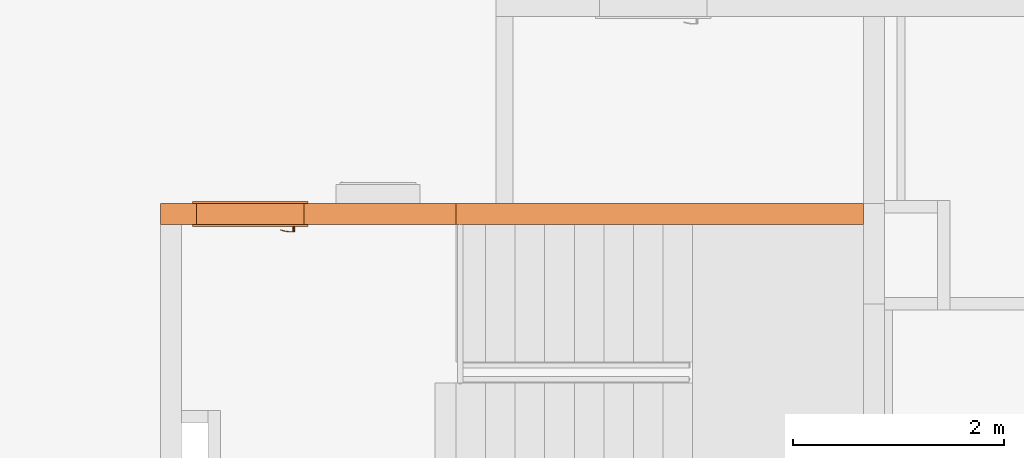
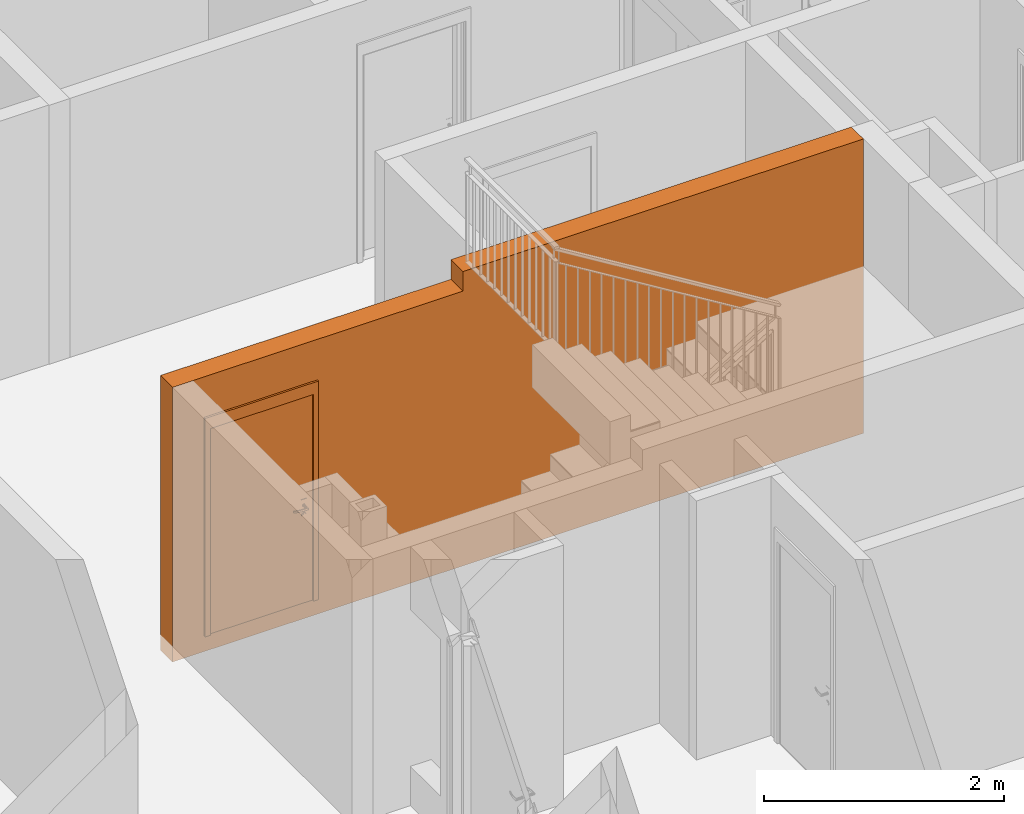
# One storey, part 23 of 61: 2 proxies, 1 opening.
"""IFC2X3 building model written with IfcOpenShell, lengths in millimetres."""

from ifc_helpers import new_model, entity, si_unit, converted_unit, derived_unit, money_unit, direction, frame, origin_with_axes, origin_2d_with_axis, place, context, subcontext, project, spatial, rectangle, extrude, open_shell, faceted_brep, surface_model, source, transform, mapped, material, type_object, element, fill, save


model = new_model("IFC2X3")

# Units and contexts
model_context = context("Model", 3, precision=0.01, world=origin_with_axes(), true_north=direction((0.34421633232, 0.938890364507)))
body_context = subcontext(model_context, "Body", "Model", "MODEL_VIEW")
ifc_project = project(units=[si_unit("LENGTHUNIT", "METRE", prefix="MILLI"), si_unit("AREAUNIT", "SQUARE_METRE"), si_unit("VOLUMEUNIT", "CUBIC_METRE"), converted_unit("PLANEANGLEUNIT", "DEGREE", entity("IfcPlaneAngleMeasure", 0.0174532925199), si_unit("PLANEANGLEUNIT", "RADIAN"), dimensions=[0, 0, 0, 0, 0, 0, 0]), si_unit("SOLIDANGLEUNIT", "STERADIAN"), money_unit("USD"), converted_unit("TIMEUNIT", "Year", entity("IfcTimeMeasure", 31556926.0), si_unit("TIMEUNIT", "SECOND"), dimensions=[0, 0, 1, 0, 0, 0, 0]), si_unit("MASSUNIT", "GRAM", prefix="KILO"), si_unit("THERMODYNAMICTEMPERATUREUNIT", "DEGREE_CELSIUS"), si_unit("LUMINOUSINTENSITYUNIT", "LUMEN"), si_unit("ENERGYUNIT", "JOULE", prefix="MEGA"), derived_unit("THERMALCONDUCTANCEUNIT", [(si_unit("POWERUNIT", "WATT"), 1), (si_unit("LENGTHUNIT", "METRE"), -1), (si_unit("THERMODYNAMICTEMPERATUREUNIT", "KELVIN"), -1)]), derived_unit("SPECIFICHEATCAPACITYUNIT", [(si_unit("ENERGYUNIT", "JOULE"), 1), (si_unit("MASSUNIT", "GRAM", prefix="KILO"), -1), (si_unit("THERMODYNAMICTEMPERATUREUNIT", "KELVIN"), -1)]), derived_unit("MASSDENSITYUNIT", [(si_unit("MASSUNIT", "GRAM", prefix="KILO"), 1), (si_unit("VOLUMEUNIT", "CUBIC_METRE"), -1)])], contexts=[model_context])

# Site, building, storey
site_placement = place(None, origin_with_axes())
site = spatial("IfcSite", under=ifc_project, at=site_placement, Name="USTRONIE MORSKIE", CompositionType="ELEMENT")
building_placement = place(site_placement, origin_with_axes())
building = spatial("IfcBuilding", under=site, at=building_placement, Name="Budynek", CompositionType="ELEMENT")
storey_placement = place(building_placement, frame((0.0, 0.0, 13000.0), z_axis=(0.0, 0.0, 1.0), x_axis=(1.0, 0.0, 0.0)))
storey = spatial("IfcBuildingStorey", under=building, at=storey_placement, Name="PIĘTRO 4", CompositionType="ELEMENT", Elevation=13000.0)

# Proxies, opening
ifc_material = material(Name="Beton konstrukcyjny B25")
building_element_proxy_type_1 = type_object("IfcBuildingElementProxyType", Name="Beton konstrukcyjny B25 200", PredefinedType="NOTDEFINED")
proxy_1_placement = place(storey_placement, frame((389657.920919, 732801.199036, -160.0), z_axis=(0.0, 0.0, 1.0), x_axis=(1.0, 0.0, 0.0)))
proxy_1 = element("IfcBuildingElementProxy", 1, at=proxy_1_placement, inside=storey, type_object=building_element_proxy_type_1, material=ifc_material, Name="SW-01", context=body_context, shape_type="Brep", body=[
    faceted_brep([(-100.0, 100.0, 2800.0), (0.0, 100.0, 2800.0), (2700.00010543, 99.9999501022, 2800.0), (2700.00010543, 99.9999501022, 3000.0), (6560.0, 100.0, 3000.0), (6560.0, 100.0, 0.0), (-100.0, 100.0, 0.0), (-100.0, -100.0, 2800.0), (0.0, -100.0, 2800.0), (2700.00010543, -100.0, 2800.0), (2700.00010543, -100.0, 3000.0), (6560.0, -100.0, 3000.0), (6560.0, -100.0, 0.0), (-100.0, -100.0, 0.0)], [[[0, 1, 2, 3, 4, 5, 6]], [[7, 8, 1, 0]], [[9, 2, 1, 8]], [[9, 10, 3, 2]], [[4, 3, 10, 11]], [[12, 5, 4, 11]], [[5, 12, 13, 6]], [[6, 13, 7, 0]], [[10, 9, 8, 7, 13, 12, 11]]]),
])
opening_placement = place(proxy_1_placement, frame((750.0, 0.0, 160.0), z_axis=(0.0, 0.0, 1.0), x_axis=(1.0, 0.0, 0.0)))
opening = element("IfcOpeningElement", 2, at=opening_placement, cuts=proxy_1, Name="Dw.1'", context=body_context, shape_type="SweptSolid", body=[
    extrude(rectangle(XDim=1020.0, YDim=2120.0, at=origin_2d_with_axis()), frame((0.0, 200.0, 1060.0), z_axis=(0.0, -1.0, 0.0), x_axis=(-1.0, 0.0, 0.0)), (0.0, 0.0, 1.0), 600.0),
    extrude(rectangle(XDim=1094.0, YDim=2227.0, at=origin_2d_with_axis()), frame((0.0, 100.0, 1113.5), z_axis=(0.0, -1.0, 0.0), x_axis=(-1.0, 0.0, 0.0)), (0.0, 0.0, -1.0), 200.0),
    extrude(rectangle(XDim=1094.0, YDim=2227.0, at=origin_2d_with_axis()), frame((0.0, -100.0, 1113.5), z_axis=(0.0, 1.0, 0.0), x_axis=(-1.0, 0.0, 0.0)), (0.0, 0.0, -1.0), 200.0),
])
building_element_proxy_type_2 = type_object("IfcBuildingElementProxyType", Name="Drzwi 23", PredefinedType="NOTDEFINED")
shared_shape = source(origin_with_axes(), body_context, "Body", "SurfaceModel", [
    faceted_brep([(-510.0, -115.0, 0.0), (-485.0, -115.0, 0.0), (-485.0, -200.0, 0.0), (-510.0, -200.0, 0.0), (-510.0, -115.0, 2120.0), (-485.0, -115.0, 2095.0), (-485.0, -200.0, 2095.0), (-510.0, -200.0, 2120.0)], [[[0, 1, 2, 3]], [[0, 4, 5, 1]], [[1, 5, 6, 2]], [[3, 2, 6, 7]], [[4, 0, 3, 7]], [[5, 4, 7, 6]]]),
    faceted_brep([(510.0, -115.0, 2120.0), (485.0, -115.0, 2095.0), (485.0, -200.0, 2095.0), (510.0, -200.0, 2120.0), (510.0, -115.0, 0.0), (485.0, -115.0, 0.0), (485.0, -200.0, 0.0), (510.0, -200.0, 0.0)], [[[0, 1, 2, 3]], [[0, 4, 5, 1]], [[1, 5, 6, 2]], [[3, 2, 6, 7]], [[4, 0, 3, 7]], [[5, 4, 7, 6]]]),
    faceted_brep([(-485.0, -115.0, 2095.0), (485.0, -115.0, 2095.0), (485.0, -200.0, 2095.0), (-485.0, -200.0, 2095.0), (-510.0, -115.0, 2120.0), (510.0, -115.0, 2120.0), (510.0, -200.0, 2120.0), (-510.0, -200.0, 2120.0)], [[[0, 1, 2, 3]], [[0, 4, 5, 1]], [[1, 5, 6, 2]], [[3, 2, 6, 7]], [[4, 0, 3, 7]], [[5, 4, 7, 6]]]),
    faceted_brep([(-547.0, -219.0, 0.0), (-547.0, -200.0, 0.0), (-497.0, -200.0, 0.0), (-497.0, -219.0, 0.0), (-547.0, -219.0, 2227.0), (-547.0, -200.0, 2227.0), (-497.0, -200.0, 2107.0), (-497.0, -219.0, 2107.0)], [[[0, 1, 2, 3]], [[4, 5, 1, 0]], [[1, 5, 6, 2]], [[3, 2, 6, 7]], [[0, 3, 7, 4]], [[7, 6, 5, 4]]]),
    faceted_brep([(547.0, -219.0, 2227.0), (547.0, -200.0, 2227.0), (497.0, -200.0, 2107.0), (497.0, -219.0, 2107.0), (547.0, -219.0, 0.0), (547.0, -200.0, 0.0), (497.0, -200.0, 0.0), (497.0, -219.0, 0.0)], [[[0, 1, 2, 3]], [[4, 5, 1, 0]], [[1, 5, 6, 2]], [[3, 2, 6, 7]], [[0, 3, 7, 4]], [[7, 6, 5, 4]]]),
    faceted_brep([(-547.0, -219.0, 2227.0), (-547.0, -200.0, 2227.0), (-497.0, -200.0, 2107.0), (-497.0, -219.0, 2107.0), (547.0, -219.0, 2227.0), (547.0, -200.0, 2227.0), (497.0, -200.0, 2107.0), (497.0, -219.0, 2107.0)], [[[0, 1, 2, 3]], [[4, 5, 1, 0]], [[1, 5, 6, 2]], [[3, 2, 6, 7]], [[0, 3, 7, 4]], [[7, 6, 5, 4]]]),
    faceted_brep([(-547.0, 19.0, 0.0), (-497.0, 19.0, 0.0), (-497.0, 0.0, 0.0), (-547.0, 0.0, 0.0), (-547.0, 19.0, 2227.0), (-497.0, 19.0, 2107.0), (-497.0, 0.0, 2107.0), (-547.0, 0.0, 2227.0)], [[[0, 1, 2, 3]], [[0, 4, 5, 1]], [[1, 5, 6, 2]], [[3, 2, 6, 7]], [[4, 0, 3, 7]], [[5, 4, 7, 6]]]),
    faceted_brep([(547.0, 19.0, 2227.0), (497.0, 19.0, 2107.0), (497.0, 0.0, 2107.0), (547.0, 0.0, 2227.0), (547.0, 19.0, 0.0), (497.0, 19.0, 0.0), (497.0, 0.0, 0.0), (547.0, 0.0, 0.0)], [[[0, 1, 2, 3]], [[0, 4, 5, 1]], [[1, 5, 6, 2]], [[3, 2, 6, 7]], [[4, 0, 3, 7]], [[5, 4, 7, 6]]]),
    faceted_brep([(-547.0, 19.0, 2227.0), (-497.0, 19.0, 2107.0), (-497.0, 0.0, 2107.0), (-547.0, 0.0, 2227.0), (547.0, 19.0, 2227.0), (497.0, 19.0, 2107.0), (497.0, 0.0, 2107.0), (547.0, 0.0, 2227.0)], [[[0, 1, 2, 3]], [[0, 4, 5, 1]], [[1, 5, 6, 2]], [[3, 2, 6, 7]], [[4, 0, 3, 7]], [[5, 4, 7, 6]]]),
    faceted_brep([(-450.0, -40.0, 0.0), (-450.0, -40.0, 2050.0), (-450.0, -115.0, 2050.0), (-450.0, -115.0, 0.0), (-462.0, -40.0, 2050.0), (-462.0, -40.0, 0.0), (-462.0, 0.0, 2050.0), (-510.0, 0.0, 2050.0), (-510.0, -115.0, 2050.0), (-510.0, -115.0, 0.0), (-510.0, 0.0, 0.0), (-462.0, 0.0, 0.0)], [[[0, 1, 2, 3]], [[4, 1, 0, 5]], [[4, 6, 7, 8, 2, 1]], [[3, 2, 8, 9]], [[5, 0, 3, 9, 10, 11]], [[6, 4, 5, 11]], [[6, 11, 10, 7]], [[10, 9, 8, 7]]]),
    faceted_brep([(462.0, -40.0, 2050.0), (450.0, -40.0, 2050.0), (450.0, -115.0, 2050.0), (510.0, -115.0, 2050.0), (510.0, 0.0, 2050.0), (462.0, 0.0, 2050.0), (462.0, -40.0, 0.0), (450.0, -40.0, 0.0), (450.0, -115.0, 0.0), (510.0, -115.0, 0.0), (510.0, 0.0, 0.0), (462.0, 0.0, 0.0)], [[[0, 1, 2, 3, 4, 5]], [[1, 0, 6, 7]], [[1, 7, 8, 2]], [[3, 2, 8, 9]], [[4, 3, 9, 10]], [[11, 5, 4, 10]], [[0, 5, 11, 6]], [[6, 11, 10, 9, 8, 7]]]),
    faceted_brep([(-462.0, 0.0, 2062.0), (-462.0, 0.0, 2050.0), (-510.0, 0.0, 2050.0), (-510.0, 0.0, 2120.0), (510.0, 0.0, 2120.0), (510.0, 0.0, 2050.0), (462.0, 0.0, 2050.0), (462.0, 0.0, 2062.0), (-462.0, -40.0, 2062.0), (-462.0, -40.0, 2050.0), (-450.0, -40.0, 2050.0), (-450.0, -115.0, 2050.0), (-510.0, -115.0, 2050.0), (-510.0, -115.0, 2120.0), (510.0, -115.0, 2120.0), (510.0, -115.0, 2050.0), (462.0, -40.0, 2050.0), (450.0, -115.0, 2050.0), (450.0, -40.0, 2050.0), (462.0, -40.0, 2062.0)], [[[0, 1, 2, 3, 4, 5, 6, 7]], [[1, 0, 8, 9]], [[9, 10, 11, 12, 2, 1]], [[2, 12, 13, 3]], [[3, 13, 14, 4]], [[4, 14, 15, 5]], [[16, 6, 5, 15, 17, 18]], [[7, 6, 16, 19]], [[0, 7, 19, 8]], [[16, 18, 10, 9, 8, 19]], [[10, 18, 17, 11]], [[17, 15, 14, 13, 12, 11]]]),
    faceted_brep([(-440.5, -40.0, 1060.0), (-440.5, -43.0, 1060.0), (-383.5, -43.0, 1060.0), (-383.5, -40.0, 1060.0), (-440.5, -40.0, 870.0), (-440.5, -43.0, 870.0), (-383.5, -43.0, 870.0), (-383.5, -40.0, 870.0)], [[[0, 1, 2, 3]], [[4, 5, 1, 0]], [[1, 5, 6, 2]], [[3, 2, 6, 7]], [[0, 3, 7, 4]], [[7, 6, 5, 4]]]),
    faceted_brep([(-412.0, -104.0, 990.0), (-412.0, -111.0, 990.0), (-417.0, -111.0, 991.339745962), (-417.0, -104.0, 991.339745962), (-387.0, -104.0, 990.0), (-387.0, -111.0, 990.0), (-387.0, -111.0, 1010.0), (-412.0, -111.0, 1010.0), (-417.0, -111.0, 1008.66025404), (-420.660254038, -111.0, 1005.0), (-422.0, -111.0, 1000.0), (-420.660254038, -111.0, 995.0), (-420.660254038, -104.0, 995.0), (-422.0, -104.0, 1000.0), (-420.660254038, -104.0, 1005.0), (-417.0, -104.0, 1008.66025404), (-412.0, -104.0, 1010.0), (-387.0, -104.0, 1010.0)], [[[0, 1, 2, 3]], [[4, 5, 1, 0]], [[1, 5, 6, 7, 8, 9, 10, 11, 2]], [[3, 2, 11, 12]], [[0, 3, 12, 13, 14, 15, 16, 17, 4]], [[17, 6, 5, 4]], [[16, 7, 6, 17]], [[15, 8, 7, 16]], [[14, 9, 8, 15]], [[13, 10, 9, 14]], [[12, 11, 10, 13]]]),
    surface_model("IfcShellBasedSurfaceModel", [(-387.0, -104.0, 1010.0), (-373.596090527, -111.0, 1009.60730092), (-373.901717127, -104.0, 1009.60730092), (-387.0, -111.0, 1010.0), (-346.890283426, -108.663544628, 1008.82190275), (-373.901717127, -104.0, 990.392699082), (-387.0, -104.0, 990.0), (-387.0, -111.0, 990.0), (-373.596090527, -111.0, 990.392699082), (-346.890283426, -108.663544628, 991.178097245), (-347.804837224, -101.716818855, 1008.82190275), (-347.804837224, -101.716818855, 991.178097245), (-320.489735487, -104.008415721, 991.963495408), (-320.489735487, -104.008415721, 1008.03650459), (-322.006256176, -97.1678329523, 1008.03650459), (-322.006256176, -97.1678329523, 991.963495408), (-294.59537082, -97.0700416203, 992.748893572), (-294.59537082, -97.0700416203, 1007.25110643), (-296.702316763, -90.3876628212, 1007.25110643), (-296.702316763, -90.3876628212, 992.748893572), (-286.538795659, -94.1376880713, 993.0), (-286.538795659, -94.1376880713, 1007.0), (-288.829442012, -87.5221707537, 1007.0), (-288.829442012, -87.5221707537, 993.0)], [open_shell([[[0, 1, 2]], [[0, 3, 1]], [[2, 1, 4]], [[0, 2, 5, 6]], [[3, 7, 8, 1]], [[1, 8, 9, 4]], [[2, 4, 10]], [[2, 10, 11, 5]], [[5, 7, 6]], [[5, 8, 7]], [[11, 9, 8]], [[4, 9, 12, 13]], [[10, 4, 13]], [[10, 14, 15, 11]], [[11, 8, 5]], [[15, 9, 11]], [[15, 12, 9]], [[13, 12, 16, 17]], [[10, 13, 14]], [[14, 18, 19, 15]], [[19, 12, 15]], [[19, 16, 12]], [[17, 16, 20, 21]], [[14, 13, 17]], [[14, 17, 18]], [[18, 22, 23, 19]], [[23, 16, 19]], [[23, 20, 16]], [[22, 21, 20, 23]], [[18, 17, 21]], [[18, 21, 22]]])]),
    faceted_brep([(-401.607695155, -53.0, 994.0), (-400.741669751, -43.0, 993.5), (-399.0, -43.0, 1000.0), (-400.0, -53.0, 1000.0), (-406.0, -53.0, 989.607695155), (-405.5, -43.0, 988.741669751), (-412.0, -43.0, 987.0), (-418.5, -43.0, 988.741669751), (-423.258330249, -43.0, 993.5), (-425.0, -43.0, 1000.0), (-423.258330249, -43.0, 1006.5), (-418.5, -43.0, 1011.25833025), (-412.0, -43.0, 1013.0), (-405.5, -43.0, 1011.25833025), (-400.741669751, -43.0, 1006.5), (-401.607695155, -53.0, 1006.0), (-406.0, -53.0, 1010.39230485), (-412.0, -53.0, 1012.0), (-418.0, -53.0, 1010.39230485), (-422.392304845, -53.0, 1006.0), (-424.0, -53.0, 1000.0), (-422.392304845, -53.0, 994.0), (-418.0, -53.0, 989.607695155), (-412.0, -53.0, 988.0)], [[[0, 1, 2, 3]], [[4, 5, 1, 0]], [[2, 1, 5, 6, 7, 8, 9, 10, 11, 12, 13, 14]], [[3, 2, 14, 15]], [[3, 15, 16, 17, 18, 19, 20, 21, 22, 23, 4, 0]], [[23, 6, 5, 4]], [[22, 7, 6, 23]], [[21, 8, 7, 22]], [[20, 9, 8, 21]], [[19, 10, 9, 20]], [[18, 11, 10, 19]], [[17, 12, 11, 18]], [[16, 13, 12, 17]], [[15, 14, 13, 16]]]),
    faceted_brep([(-394.679491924, -47.0, 895.0), (-392.947441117, -43.0, 894.0), (-390.0, -43.0, 905.0), (-392.0, -47.0, 905.0), (-402.0, -47.0, 887.679491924), (-401.0, -43.0, 885.947441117), (-412.0, -43.0, 883.0), (-423.0, -43.0, 885.947441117), (-431.052558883, -43.0, 894.0), (-434.0, -43.0, 905.0), (-431.052558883, -43.0, 916.0), (-423.0, -43.0, 924.052558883), (-412.0, -43.0, 927.0), (-401.0, -43.0, 924.052558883), (-392.947441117, -43.0, 916.0), (-394.679491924, -47.0, 915.0), (-402.0, -47.0, 922.320508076), (-412.0, -47.0, 925.0), (-422.0, -47.0, 922.320508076), (-429.320508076, -47.0, 915.0), (-432.0, -47.0, 905.0), (-429.320508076, -47.0, 895.0), (-422.0, -47.0, 887.679491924), (-412.0, -47.0, 885.0)], [[[0, 1, 2, 3]], [[4, 5, 1, 0]], [[2, 1, 5, 6, 7, 8, 9, 10, 11, 12, 13, 14]], [[3, 2, 14, 15]], [[3, 15, 16, 17, 18, 19, 20, 21, 22, 23, 4, 0]], [[23, 6, 5, 4]], [[22, 7, 6, 23]], [[21, 8, 7, 22]], [[20, 9, 8, 21]], [[19, 10, 9, 20]], [[18, 11, 10, 19]], [[17, 12, 11, 18]], [[16, 13, 12, 17]], [[15, 14, 13, 16]]]),
    faceted_brep([(-407.050252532, -49.0, 909.050252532), (-406.343145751, -47.0, 908.343145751), (-404.0, -47.0, 914.0), (-405.0, -49.0, 914.0), (-412.0, -49.0, 907.0), (-412.0, -47.0, 906.0), (-417.656854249, -47.0, 908.343145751), (-420.0, -47.0, 914.0), (-417.656854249, -47.0, 919.656854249), (-412.0, -47.0, 922.0), (-406.343145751, -47.0, 919.656854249), (-407.050252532, -49.0, 918.949747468), (-412.0, -49.0, 921.0), (-416.949747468, -49.0, 918.949747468), (-419.0, -49.0, 914.0), (-416.949747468, -49.0, 909.050252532)], [[[0, 1, 2, 3]], [[4, 5, 1, 0]], [[2, 1, 5, 6, 7, 8, 9, 10]], [[3, 2, 10, 11]], [[3, 11, 12, 13, 14, 15, 4, 0]], [[15, 6, 5, 4]], [[14, 7, 6, 15]], [[13, 8, 7, 14]], [[12, 9, 8, 13]], [[11, 10, 9, 12]]]),
    faceted_brep([(-412.0, -53.0, 1010.0), (-412.0, -104.0, 1010.0), (-407.0, -104.0, 1008.66025404), (-407.0, -53.0, 1008.66025404), (-417.0, -53.0, 1008.66025404), (-417.0, -104.0, 1008.66025404), (-420.660254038, -104.0, 1005.0), (-422.0, -104.0, 1000.0), (-420.660254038, -104.0, 995.0), (-417.0, -104.0, 991.339745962), (-412.0, -104.0, 990.0), (-407.0, -104.0, 991.339745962), (-403.339745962, -104.0, 995.0), (-402.0, -104.0, 1000.0), (-403.339745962, -104.0, 1005.0), (-403.339745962, -53.0, 1005.0), (-402.0, -53.0, 1000.0), (-403.339745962, -53.0, 995.0), (-407.0, -53.0, 991.339745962), (-412.0, -53.0, 990.0), (-417.0, -53.0, 991.339745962), (-420.660254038, -53.0, 995.0), (-422.0, -53.0, 1000.0), (-420.660254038, -53.0, 1005.0)], [[[0, 1, 2, 3]], [[4, 5, 1, 0]], [[1, 5, 6, 7, 8, 9, 10, 11, 12, 13, 14, 2]], [[3, 2, 14, 15]], [[0, 3, 15, 16, 17, 18, 19, 20, 21, 22, 23, 4]], [[23, 6, 5, 4]], [[22, 7, 6, 23]], [[21, 8, 7, 22]], [[20, 9, 8, 21]], [[19, 10, 9, 20]], [[18, 11, 10, 19]], [[17, 12, 11, 18]], [[16, 13, 12, 17]], [[15, 14, 13, 16]]]),
    faceted_brep([(-440.5, 0.0, 1060.0), (-383.5, 0.0, 1060.0), (-383.5, 3.0, 1060.0), (-440.5, 3.0, 1060.0), (-440.5, 0.0, 870.0), (-383.5, 0.0, 870.0), (-383.5, 3.0, 870.0), (-440.5, 3.0, 870.0)], [[[0, 1, 2, 3]], [[0, 4, 5, 1]], [[1, 5, 6, 2]], [[3, 2, 6, 7]], [[4, 0, 3, 7]], [[5, 4, 7, 6]]]),
    faceted_brep([(-412.0, 64.0, 990.0), (-417.0, 64.0, 991.339745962), (-417.0, 71.0, 991.339745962), (-412.0, 71.0, 990.0), (-387.0, 64.0, 990.0), (-387.0, 64.0, 1010.0), (-412.0, 64.0, 1010.0), (-417.0, 64.0, 1008.66025404), (-420.660254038, 64.0, 1005.0), (-422.0, 64.0, 1000.0), (-420.660254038, 64.0, 995.0), (-420.660254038, 71.0, 995.0), (-422.0, 71.0, 1000.0), (-420.660254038, 71.0, 1005.0), (-417.0, 71.0, 1008.66025404), (-412.0, 71.0, 1010.0), (-387.0, 71.0, 1010.0), (-387.0, 71.0, 990.0)], [[[0, 1, 2, 3]], [[0, 4, 5, 6, 7, 8, 9, 10, 1]], [[1, 10, 11, 2]], [[3, 2, 11, 12, 13, 14, 15, 16, 17]], [[4, 0, 3, 17]], [[5, 4, 17, 16]], [[6, 5, 16, 15]], [[7, 6, 15, 14]], [[8, 7, 14, 13]], [[9, 8, 13, 12]], [[10, 9, 12, 11]]]),
    surface_model("IfcShellBasedSurfaceModel", [(-387.0, 64.0, 1010.0), (-373.901717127, 64.0, 1009.60730092), (-373.596090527, 71.0, 1009.60730092), (-387.0, 64.0, 990.0), (-373.901717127, 64.0, 990.392699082), (-346.890283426, 68.6635446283, 1008.82190275), (-387.0, 71.0, 1010.0), (-387.0, 71.0, 990.0), (-347.804837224, 61.716818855, 991.178097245), (-347.804837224, 61.716818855, 1008.82190275), (-346.890283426, 68.6635446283, 991.178097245), (-373.596090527, 71.0, 990.392699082), (-322.006256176, 57.1678329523, 991.963495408), (-322.006256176, 57.1678329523, 1008.03650459), (-320.489735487, 64.0084157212, 1008.03650459), (-320.489735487, 64.0084157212, 991.963495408), (-296.702316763, 50.3876628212, 992.748893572), (-296.702316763, 50.3876628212, 1007.25110643), (-294.59537082, 57.0700416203, 1007.25110643), (-294.59537082, 57.0700416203, 992.748893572), (-288.829442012, 47.5221707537, 993.0), (-288.829442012, 47.5221707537, 1007.0), (-286.538795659, 54.1376880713, 1007.0), (-286.538795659, 54.1376880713, 993.0)], [open_shell([[[0, 1, 2]], [[0, 3, 4, 1]], [[1, 5, 2]], [[0, 2, 6]], [[4, 3, 7]], [[1, 4, 8, 9]], [[1, 9, 5]], [[2, 5, 10, 11]], [[6, 2, 11, 7]], [[4, 7, 11]], [[8, 4, 11]], [[9, 8, 12, 13]], [[9, 14, 5]], [[5, 14, 15, 10]], [[8, 11, 10]], [[12, 8, 10]], [[13, 12, 16, 17]], [[9, 13, 14]], [[14, 18, 19, 15]], [[12, 10, 15]], [[16, 12, 15]], [[17, 16, 20, 21]], [[13, 17, 18]], [[13, 18, 14]], [[18, 22, 23, 19]], [[16, 15, 19]], [[20, 16, 19]], [[21, 20, 23, 22]], [[17, 21, 22]], [[17, 22, 18]], [[20, 19, 23]]])]),
    faceted_brep([(-401.607695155, 13.0, 994.0), (-400.0, 13.0, 1000.0), (-399.0, 3.0, 1000.0), (-400.741669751, 3.0, 993.5), (-406.0, 13.0, 989.607695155), (-412.0, 13.0, 988.0), (-418.0, 13.0, 989.607695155), (-422.392304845, 13.0, 994.0), (-424.0, 13.0, 1000.0), (-422.392304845, 13.0, 1006.0), (-418.0, 13.0, 1010.39230485), (-412.0, 13.0, 1012.0), (-406.0, 13.0, 1010.39230485), (-401.607695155, 13.0, 1006.0), (-400.741669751, 3.0, 1006.5), (-405.5, 3.0, 1011.25833025), (-412.0, 3.0, 1013.0), (-418.5, 3.0, 1011.25833025), (-423.258330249, 3.0, 1006.5), (-425.0, 3.0, 1000.0), (-423.258330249, 3.0, 993.5), (-418.5, 3.0, 988.741669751), (-412.0, 3.0, 987.0), (-405.5, 3.0, 988.741669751)], [[[0, 1, 2, 3]], [[1, 0, 4, 5, 6, 7, 8, 9, 10, 11, 12, 13]], [[1, 13, 14, 2]], [[2, 14, 15, 16, 17, 18, 19, 20, 21, 22, 23, 3]], [[4, 0, 3, 23]], [[5, 4, 23, 22]], [[6, 5, 22, 21]], [[7, 6, 21, 20]], [[8, 7, 20, 19]], [[9, 8, 19, 18]], [[10, 9, 18, 17]], [[11, 10, 17, 16]], [[12, 11, 16, 15]], [[13, 12, 15, 14]]]),
    faceted_brep([(-394.679491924, 7.0, 895.0), (-392.0, 7.0, 905.0), (-390.0, 3.0, 905.0), (-392.947441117, 3.0, 894.0), (-402.0, 7.0, 887.679491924), (-412.0, 7.0, 885.0), (-422.0, 7.0, 887.679491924), (-429.320508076, 7.0, 895.0), (-432.0, 7.0, 905.0), (-429.320508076, 7.0, 915.0), (-422.0, 7.0, 922.320508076), (-412.0, 7.0, 925.0), (-402.0, 7.0, 922.320508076), (-394.679491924, 7.0, 915.0), (-392.947441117, 3.0, 916.0), (-401.0, 3.0, 924.052558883), (-412.0, 3.0, 927.0), (-423.0, 3.0, 924.052558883), (-431.052558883, 3.0, 916.0), (-434.0, 3.0, 905.0), (-431.052558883, 3.0, 894.0), (-423.0, 3.0, 885.947441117), (-412.0, 3.0, 883.0), (-401.0, 3.0, 885.947441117)], [[[0, 1, 2, 3]], [[1, 0, 4, 5, 6, 7, 8, 9, 10, 11, 12, 13]], [[1, 13, 14, 2]], [[2, 14, 15, 16, 17, 18, 19, 20, 21, 22, 23, 3]], [[4, 0, 3, 23]], [[5, 4, 23, 22]], [[6, 5, 22, 21]], [[7, 6, 21, 20]], [[8, 7, 20, 19]], [[9, 8, 19, 18]], [[10, 9, 18, 17]], [[11, 10, 17, 16]], [[12, 11, 16, 15]], [[13, 12, 15, 14]]]),
    faceted_brep([(-407.050252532, 9.0, 909.050252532), (-405.0, 9.0, 914.0), (-404.0, 7.0, 914.0), (-406.343145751, 7.0, 908.343145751), (-412.0, 9.0, 907.0), (-416.949747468, 9.0, 909.050252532), (-419.0, 9.0, 914.0), (-416.949747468, 9.0, 918.949747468), (-412.0, 9.0, 921.0), (-407.050252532, 9.0, 918.949747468), (-406.343145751, 7.0, 919.656854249), (-412.0, 7.0, 922.0), (-417.656854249, 7.0, 919.656854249), (-420.0, 7.0, 914.0), (-417.656854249, 7.0, 908.343145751), (-412.0, 7.0, 906.0)], [[[0, 1, 2, 3]], [[1, 0, 4, 5, 6, 7, 8, 9]], [[1, 9, 10, 2]], [[2, 10, 11, 12, 13, 14, 15, 3]], [[4, 0, 3, 15]], [[5, 4, 15, 14]], [[6, 5, 14, 13]], [[7, 6, 13, 12]], [[8, 7, 12, 11]], [[9, 8, 11, 10]]]),
    faceted_brep([(-412.0, 13.0, 1010.0), (-407.0, 13.0, 1008.66025404), (-407.0, 64.0, 1008.66025404), (-412.0, 64.0, 1010.0), (-417.0, 13.0, 1008.66025404), (-420.660254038, 13.0, 1005.0), (-422.0, 13.0, 1000.0), (-420.660254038, 13.0, 995.0), (-417.0, 13.0, 991.339745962), (-412.0, 13.0, 990.0), (-407.0, 13.0, 991.339745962), (-403.339745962, 13.0, 995.0), (-402.0, 13.0, 1000.0), (-403.339745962, 13.0, 1005.0), (-403.339745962, 64.0, 1005.0), (-402.0, 64.0, 1000.0), (-403.339745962, 64.0, 995.0), (-407.0, 64.0, 991.339745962), (-412.0, 64.0, 990.0), (-417.0, 64.0, 991.339745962), (-420.660254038, 64.0, 995.0), (-422.0, 64.0, 1000.0), (-420.660254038, 64.0, 1005.0), (-417.0, 64.0, 1008.66025404)], [[[0, 1, 2, 3]], [[0, 4, 5, 6, 7, 8, 9, 10, 11, 12, 13, 1]], [[1, 13, 14, 2]], [[3, 2, 14, 15, 16, 17, 18, 19, 20, 21, 22, 23]], [[4, 0, 3, 23]], [[5, 4, 23, 22]], [[6, 5, 22, 21]], [[7, 6, 21, 20]], [[8, 7, 20, 19]], [[9, 8, 19, 18]], [[10, 9, 18, 17]], [[11, 10, 17, 16]], [[12, 11, 16, 15]], [[13, 12, 15, 14]]]),
    faceted_brep([(462.0, 0.0, 0.0), (462.0, -40.0, 0.0), (-462.0, -40.0, 0.0), (-462.0, 0.0, 0.0), (462.0, 0.0, 2062.0), (462.0, -40.0, 2062.0), (-462.0, -40.0, 2062.0), (-462.0, 0.0, 2062.0)], [[[0, 1, 2, 3]], [[4, 5, 1, 0]], [[1, 5, 6, 2]], [[3, 2, 6, 7]], [[0, 3, 7, 4]], [[7, 6, 5, 4]]]),
])
proxy_2_placement = place(opening_placement, frame((450.0, 0.0, 0.0), z_axis=(0.0, 0.0, 1.0), x_axis=(-1.0, 0.0, 0.0)))
proxy_2 = element("IfcBuildingElementProxy", 3, at=proxy_2_placement, inside=storey, type_object=building_element_proxy_type_2, Name="Dw.1'", context=body_context, shape_type="MappedRepresentation", body=[
    mapped(shared_shape, transform((450.0, 100.0, 0.0))),
])
fill(opening, proxy_2)

save(model, "model.ifc")
